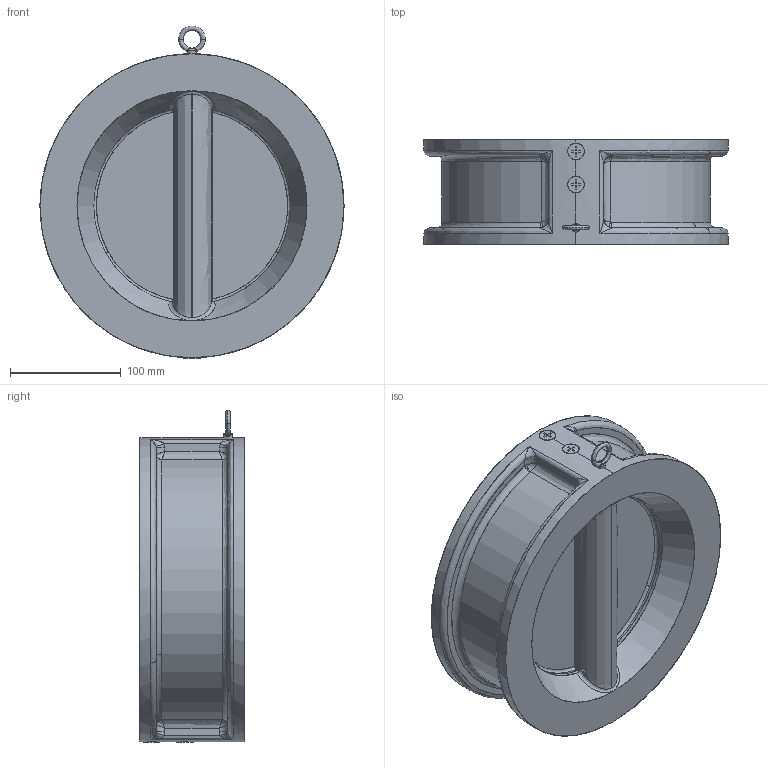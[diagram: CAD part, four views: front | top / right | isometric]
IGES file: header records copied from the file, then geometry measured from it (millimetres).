
Start section: SolidWorks IGES file using analytic representation for surfaces
Global section: file name: C:\Users\Administrator\Desktop\temp\00.IGS; native system: SolidWorks 2015; preprocessor: SolidWorks 2015; author: Administrator; date: 170402.174712; units: millimetre
Bounding box: 275 x 95 x 300.27 mm (x, y, z)
Surface area: 390646.2 mm2 (no closed solid volume)
Topology: 0 solids, 0 shells, 467 faces, 5676 edges, 5651 vertices
Faces by surface type: bspline 285, revolution 182
